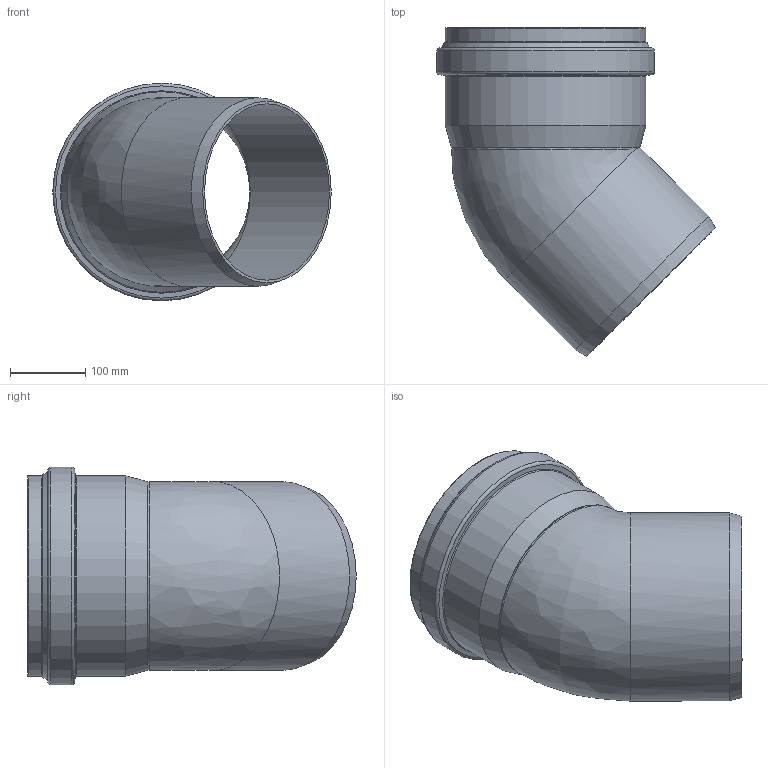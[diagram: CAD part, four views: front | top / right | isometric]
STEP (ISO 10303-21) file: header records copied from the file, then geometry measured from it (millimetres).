
FILE_DESCRIPTION(/* description */ (''),/* implementation_level */ '2;1');
FILE_NAME(/* name */ '771720z.stp',/* time_stamp */ '2026-02-06T08:24:14+01:00',/* author */ ('corinna'),/* organization */ (''),/* preprocessor_version */ 'ST-DEVELOPER v20',/* originating_system */ 'Autodesk Inventor 2024',/* authorisation */ '');
FILE_SCHEMA (('AUTOMOTIVE_DESIGN { 1 0 10303 214 3 1 1 }'));
Length unit declared in the file: millimetre
Products named in the file (1): 771720z
Bounding box: 369.67 x 435.97 x 289 mm (x, y, z)
Volume: 2615530.1 mm3; surface area: 670172.4 mm2
Topology: 1 solids, 1 shells, 42 faces, 113 edges, 72 vertices
Faces by surface type: torus 16, cone 11, cylinder 11, plane 3, bspline 1
Full cylindrical faces by diameter (mm): 234.3 x2, 250.3 x1, 251.7 x1, 252.1 x2, 266.1 x1, 266.5 x1, 274.6 x1, 289 x1
Entity records: 1440 total; most frequent: DIRECTION 281, CARTESIAN_POINT 272, ORIENTED_EDGE 222, AXIS2_PLACEMENT_3D 130, EDGE_CURVE 111, CIRCLE 86, VERTEX_POINT 72, EDGE_LOOP 45
